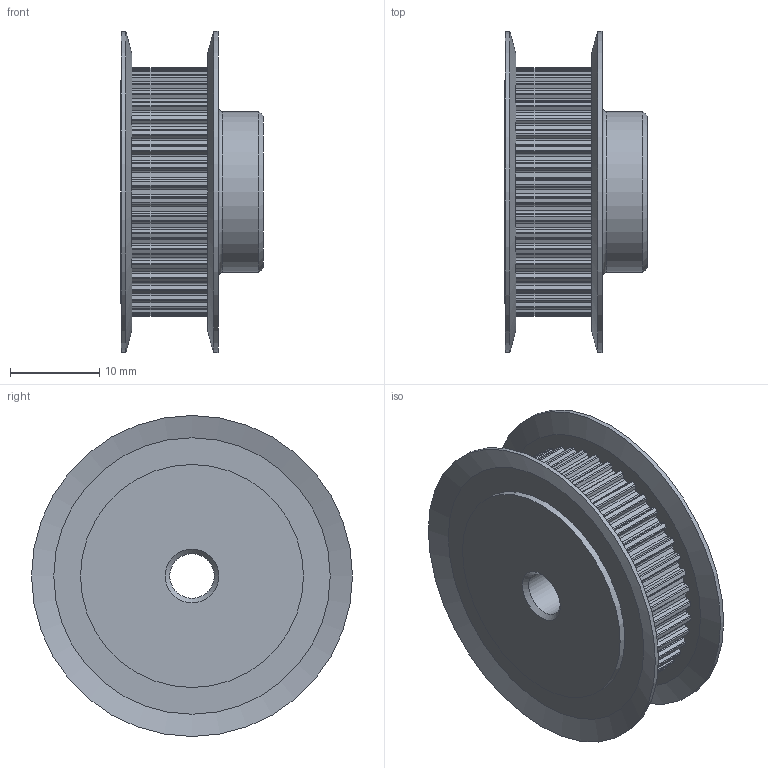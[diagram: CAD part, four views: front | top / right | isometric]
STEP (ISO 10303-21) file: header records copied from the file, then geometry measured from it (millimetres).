
FILE_DESCRIPTION(/* description */ ('PULEGGE 44 MXL 025/F'),/* implementation_level */ '2;1');
FILE_NAME(/* name */ 'w:\documenti\Disegni dwg\Catalogo\Pulegge\MXL\025\Step (caricati)\42025144.stp',/* time_stamp */ '2023-06-08T10:59:45+02:00',/* author */ ('carlo.bersi'),/* organization */ (''),/* preprocessor_version */ 'ST-DEVELOPER v19',/* originating_system */ 'Autodesk Inventor 2023',/* authorisation */ '');
FILE_SCHEMA (('CONFIG_CONTROL_DESIGN'));
Length unit declared in the file: millimetre
Products named in the file (3): 42025144; 42025144P; 49200510
Assembly tree (3 placements, depth 2):
  42025144
    42025144P
    49200510  x2
Bounding box: 16 x 36 x 36 mm (x, y, z)
Volume: 7642.5 mm3; surface area: 5200.9 mm2
Topology: 3 solids, 3 shells, 377 faces, 1097 edges, 729 vertices
Faces by surface type: cylinder 228, plane 141, cone 7, torus 1
Full cylindrical faces by diameter (mm): 5 x1, 18 x1, 25 x4, 36 x2
Entity records: 12633 total; most frequent: DIRECTION 2301, CARTESIAN_POINT 2187, ORIENTED_EDGE 2174, EDGE_CURVE 1087, AXIS2_PLACEMENT_3D 837, VERTEX_POINT 723, LINE 627, VECTOR 627
